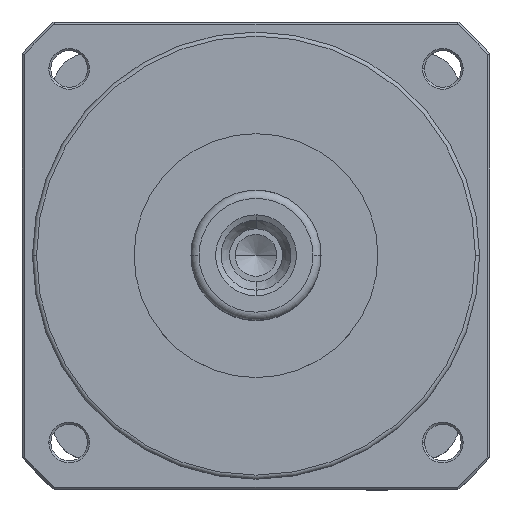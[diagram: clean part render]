
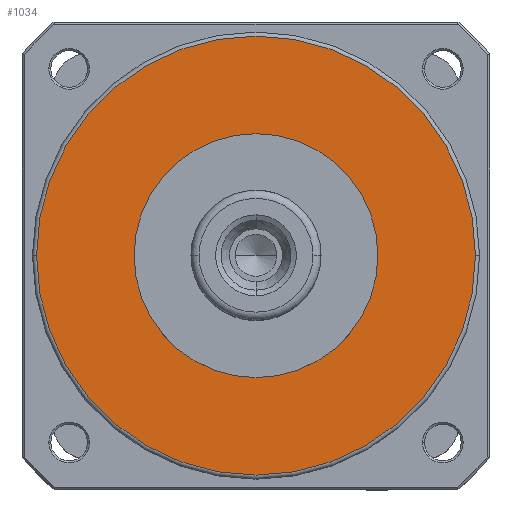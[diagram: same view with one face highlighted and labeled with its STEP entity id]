
A CAD part, top view. The second image highlights one B-rep face of the part: STEP entity #1034.
In plain terms, the highlighted planar face has unit normal (0, 0, 1).
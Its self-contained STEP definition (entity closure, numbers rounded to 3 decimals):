
#209=FACE_BOUND('',#2129,.T.);
#210=FACE_BOUND('',#2130,.T.);
#1034=ADVANCED_FACE('',(#209,#210),#1223,.T.);
#1223=PLANE('',#8482);
#2129=EDGE_LOOP('',(#4502,#4503));
#2130=EDGE_LOOP('',(#4504));
#2464=CIRCLE('',#8182,54.);
#2614=CIRCLE('',#8477,54.);
#2616=CIRCLE('',#8481,30.);
#4502=ORIENTED_EDGE('',*,*,#6124,.F.);
#4503=ORIENTED_EDGE('',*,*,#6490,.F.);
#4504=ORIENTED_EDGE('',*,*,#6492,.T.);
#5230=VERTEX_POINT('',#12773);
#5231=VERTEX_POINT('',#12774);
#5461=VERTEX_POINT('',#13852);
#6124=EDGE_CURVE('',#5230,#5231,#2464,.T.);
#6490=EDGE_CURVE('',#5231,#5230,#2614,.T.);
#6492=EDGE_CURVE('',#5461,#5461,#2616,.T.);
#8182=AXIS2_PLACEMENT_3D('',#12772,#9876,#9877);
#8477=AXIS2_PLACEMENT_3D('',#13847,#10639,#10640);
#8481=AXIS2_PLACEMENT_3D('',#13851,#10647,#10648);
#8482=AXIS2_PLACEMENT_3D('',#13853,#10649,#10650);
#9876=DIRECTION('',(0.,0.,-1.));
#9877=DIRECTION('',(-1.,0.,0.));
#10639=DIRECTION('',(0.,0.,-1.));
#10640=DIRECTION('',(-1.,0.,0.));
#10647=DIRECTION('',(0.,0.,-1.));
#10648=DIRECTION('',(1.,0.,0.));
#10649=DIRECTION('',(0.,0.,1.));
#10650=DIRECTION('',(-1.,0.,0.));
#12772=CARTESIAN_POINT('',(0.,0.,172.));
#12773=CARTESIAN_POINT('',(-54.,0.,172.));
#12774=CARTESIAN_POINT('',(54.,0.,172.));
#13847=CARTESIAN_POINT('',(0.,0.,172.));
#13851=CARTESIAN_POINT('',(0.,0.,172.));
#13852=CARTESIAN_POINT('',(30.,0.,172.));
#13853=CARTESIAN_POINT('',(0.,0.,172.));
